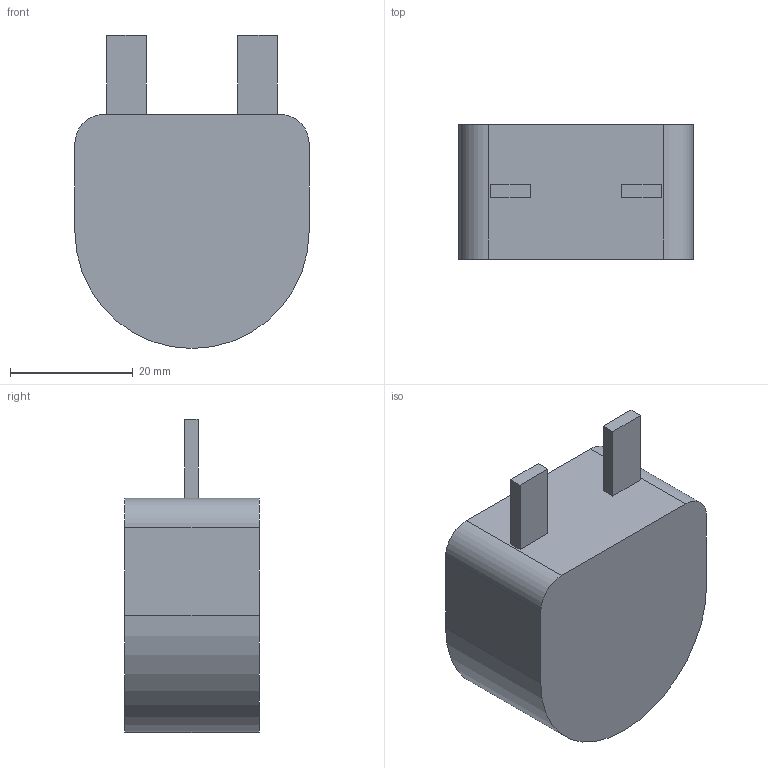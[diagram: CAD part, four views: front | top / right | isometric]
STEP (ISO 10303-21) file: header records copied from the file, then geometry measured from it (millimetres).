
FILE_DESCRIPTION (( 'STEP AP214' ), '1' );
FILE_NAME ('IHXL1500VZEB5R6M3A.STEP', '2025-08-07T20:57:47', ( '' ), ( '' ), 'SwSTEP 2.0', 'SolidWorks 2024', '' );
FILE_SCHEMA (( 'AUTOMOTIVE_DESIGN' ));
Length unit declared in the file: inch
Products named in the file (1): IHXL1500VZEB5R6M3A
Bounding box: 38.1 x 21.89 x 50.93 mm (x, y, z)
Volume: 28523.6 mm3; surface area: 5904.5 mm2
Topology: 1 solids, 1 shells, 19 faces, 45 edges, 30 vertices
Faces by surface type: plane 15, cylinder 4
Entity records: 574 total; most frequent: CARTESIAN_POINT 95, DIRECTION 93, ORIENTED_EDGE 90, EDGE_CURVE 45, LINE 37, VECTOR 37, VERTEX_POINT 30, AXIS2_PLACEMENT_3D 28
